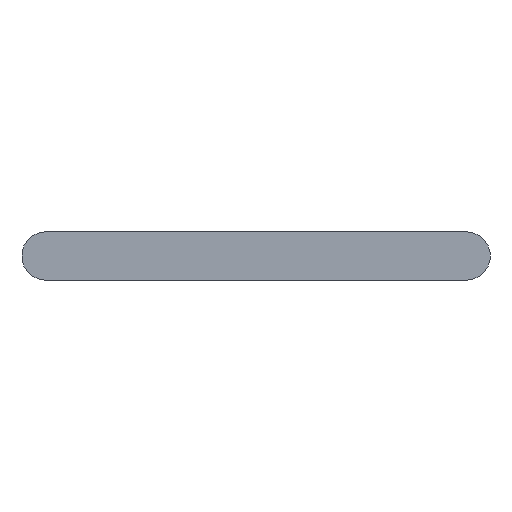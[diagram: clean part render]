
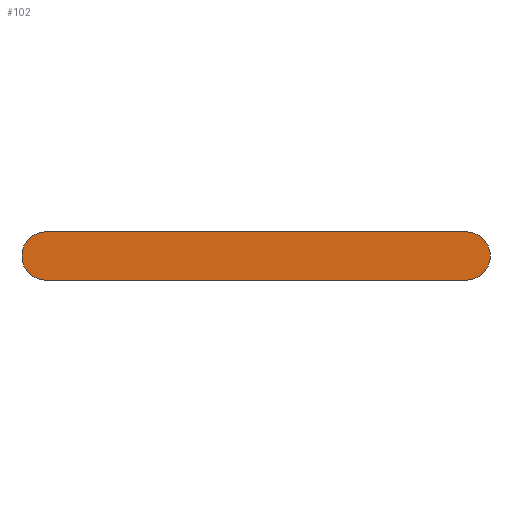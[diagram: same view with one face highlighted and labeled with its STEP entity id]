
A CAD part, front view. The second image highlights one B-rep face of the part: STEP entity #102.
In plain terms, the highlighted planar face has unit normal (0, -1, 0).
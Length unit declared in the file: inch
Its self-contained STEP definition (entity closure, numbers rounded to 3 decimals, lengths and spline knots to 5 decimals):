
#15=CIRCLE('',#119,0.0465);
#17=CIRCLE('',#123,0.0465);
#26=FACE_OUTER_BOUND('',#32,.T.);
#32=EDGE_LOOP('',(#89,#90,#91,#92));
#33=LINE('',#161,#41);
#38=LINE('',#175,#46);
#41=VECTOR('',#131,0.3937);
#46=VECTOR('',#144,0.3937);
#49=VERTEX_POINT('',#159);
#50=VERTEX_POINT('',#160);
#53=VERTEX_POINT('',#168);
#55=VERTEX_POINT('',#174);
#57=EDGE_CURVE('',#49,#50,#33,.T.);
#61=EDGE_CURVE('',#53,#49,#15,.T.);
#64=EDGE_CURVE('',#55,#53,#38,.T.);
#67=EDGE_CURVE('',#50,#55,#17,.T.);
#89=ORIENTED_EDGE('',*,*,#67,.F.);
#90=ORIENTED_EDGE('',*,*,#57,.F.);
#91=ORIENTED_EDGE('',*,*,#61,.F.);
#92=ORIENTED_EDGE('',*,*,#64,.F.);
#96=PLANE('',#126);
#102=ADVANCED_FACE('',(#26),#96,.F.);
#119=AXIS2_PLACEMENT_3D('',#169,#137,#138);
#123=AXIS2_PLACEMENT_3D('',#180,#149,#150);
#126=AXIS2_PLACEMENT_3D('',#183,#155,#156);
#131=DIRECTION('',(-1.,0.,0.));
#137=DIRECTION('center_axis',(0.,1.,0.));
#138=DIRECTION('ref_axis',(0.,0.,1.));
#144=DIRECTION('',(1.,0.,0.));
#149=DIRECTION('center_axis',(0.,1.,0.));
#150=DIRECTION('ref_axis',(0.,0.,-1.));
#155=DIRECTION('center_axis',(0.,1.,0.));
#156=DIRECTION('ref_axis',(1.,0.,0.));
#159=CARTESIAN_POINT('',(0.8535,0.,-0.0465));
#160=CARTESIAN_POINT('',(0.0465,0.,-0.0465));
#161=CARTESIAN_POINT('',(0.8535,0.,-0.0465));
#168=CARTESIAN_POINT('',(0.8535,0.,0.0465));
#169=CARTESIAN_POINT('Origin',(0.8535,0.,0.));
#174=CARTESIAN_POINT('',(0.0465,0.,0.0465));
#175=CARTESIAN_POINT('',(0.0465,0.,0.0465));
#180=CARTESIAN_POINT('Origin',(0.0465,0.,0.));
#183=CARTESIAN_POINT('Origin',(0.45,0.,0.));
